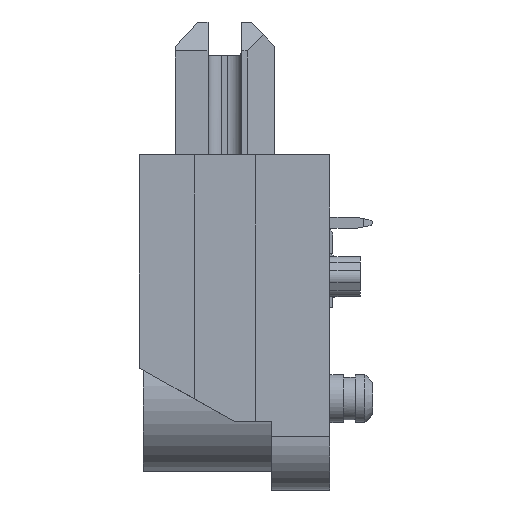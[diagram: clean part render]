
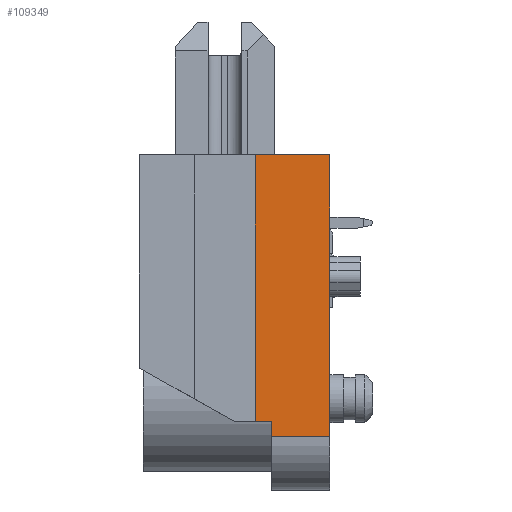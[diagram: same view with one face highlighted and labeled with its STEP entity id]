
A CAD part, left-side view. The second image highlights one B-rep face of the part: STEP entity #109349.
In plain terms, the highlighted planar face has unit normal (-1, 0, 0).
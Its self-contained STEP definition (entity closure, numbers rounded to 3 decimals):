
#4009 = CARTESIAN_POINT ( 'NONE',  ( 20., 0., -9.25 ) ) ;
#4011 = CARTESIAN_POINT ( 'NONE',  ( 20., 1.905, -9.25 ) ) ;
#4012 = CARTESIAN_POINT ( 'NONE',  ( 20., 1.905, -8.75 ) ) ;
#4016 = CARTESIAN_POINT ( 'NONE',  ( 20., 2.45, 0. ) ) ;
#4018 = CARTESIAN_POINT ( 'NONE',  ( 20., 2.45, -8.75 ) ) ;
#12391 = EDGE_CURVE ( 'NONE', #56601, #143357, #47468, .T. ) ;
#12480 = EDGE_CURVE ( 'NONE', #56601, #143346, #47768, .T. ) ;
#18426 = EDGE_CURVE ( 'NONE', #143349, #143352, #73539, .T. ) ;
#36490 = VECTOR ( 'NONE', #47770, 1000. ) ;
#47468 = LINE ( 'NONE', #47470, #103537 ) ;
#47470 = CARTESIAN_POINT ( 'NONE',  ( 20., 6.25, 0. ) ) ;
#47471 = DIRECTION ( 'NONE',  ( 0., 1., 0. ) ) ;
#47768 = LINE ( 'NONE', #47769, #36490 ) ;
#47769 = CARTESIAN_POINT ( 'NONE',  ( 20., 0., 0. ) ) ;
#47770 = DIRECTION ( 'NONE',  ( 0., 0., -1. ) ) ;
#56601 = VERTEX_POINT ( 'NONE', #120164 ) ;
#70663 = CARTESIAN_POINT ( 'NONE',  ( 20., 1.905, 0. ) ) ;
#70665 = DIRECTION ( 'NONE',  ( 0., 0., 1. ) ) ;
#73539 = LINE ( 'NONE', #70663, #118855 ) ;
#92262 = VECTOR ( 'NONE', #99924, 1000. ) ;
#92353 = VECTOR ( 'NONE', #100191, 1000. ) ;
#92751 = VECTOR ( 'NONE', #101179, 1000. ) ;
#95434 = EDGE_CURVE ( 'NONE', #143352, #143359, #99920, .T. ) ;
#95993 = EDGE_CURVE ( 'NONE', #143346, #143349, #100169, .T. ) ;
#96730 = EDGE_CURVE ( 'NONE', #143359, #143357, #101161, .T. ) ;
#99920 = LINE ( 'NONE', #99922, #92262 ) ;
#99922 = CARTESIAN_POINT ( 'NONE',  ( 20., 6.25, -8.75 ) ) ;
#99924 = DIRECTION ( 'NONE',  ( 0., 1., 0. ) ) ;
#100169 = LINE ( 'NONE', #100172, #92353 ) ;
#100172 = CARTESIAN_POINT ( 'NONE',  ( 20., 6.25, -9.25 ) ) ;
#100191 = DIRECTION ( 'NONE',  ( 0., 1., 0. ) ) ;
#101156 = CARTESIAN_POINT ( 'NONE',  ( 20., 2.45, 0. ) ) ;
#101161 = LINE ( 'NONE', #101156, #92751 ) ;
#101179 = DIRECTION ( 'NONE',  ( 0., 0., 1. ) ) ;
#103537 = VECTOR ( 'NONE', #47471, 1000. ) ;
#109349 = ADVANCED_FACE ( 'NONE', ( #137637 ), #137640, .F. ) ;
#111827 = EDGE_LOOP ( 'NONE', ( #147222, #147224, #147226, #147227, #147229, #147231 ) ) ;
#118855 = VECTOR ( 'NONE', #70665, 1000. ) ;
#120164 = CARTESIAN_POINT ( 'NONE',  ( 20., 0., 0. ) ) ;
#134044 = AXIS2_PLACEMENT_3D ( 'NONE', #137657, #137659, #137661 ) ;
#137637 = FACE_OUTER_BOUND ( 'NONE', #111827, .T. ) ;
#137640 = PLANE ( 'NONE',  #134044 ) ;
#137657 = CARTESIAN_POINT ( 'NONE',  ( 20., 6.25, 0. ) ) ;
#137659 = DIRECTION ( 'NONE',  ( 1., 0., 0. ) ) ;
#137661 = DIRECTION ( 'NONE',  ( 0., 0., -1. ) ) ;
#143346 = VERTEX_POINT ( 'NONE', #4009 ) ;
#143349 = VERTEX_POINT ( 'NONE', #4011 ) ;
#143352 = VERTEX_POINT ( 'NONE', #4012 ) ;
#143357 = VERTEX_POINT ( 'NONE', #4016 ) ;
#143359 = VERTEX_POINT ( 'NONE', #4018 ) ;
#147222 = ORIENTED_EDGE ( 'NONE', *, *, #96730, .F. ) ;
#147224 = ORIENTED_EDGE ( 'NONE', *, *, #95434, .F. ) ;
#147226 = ORIENTED_EDGE ( 'NONE', *, *, #18426, .F. ) ;
#147227 = ORIENTED_EDGE ( 'NONE', *, *, #95993, .F. ) ;
#147229 = ORIENTED_EDGE ( 'NONE', *, *, #12480, .F. ) ;
#147231 = ORIENTED_EDGE ( 'NONE', *, *, #12391, .T. ) ;
